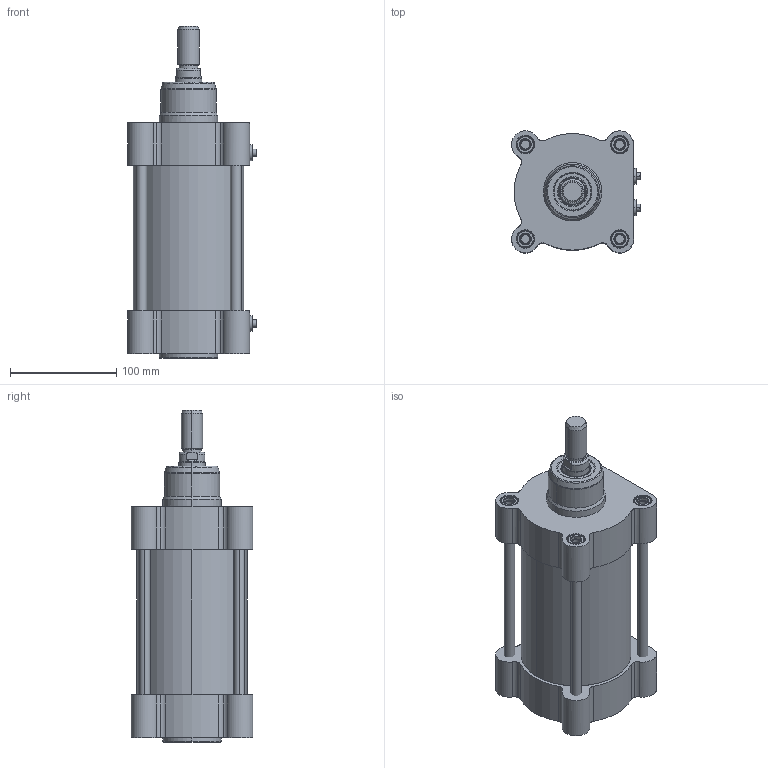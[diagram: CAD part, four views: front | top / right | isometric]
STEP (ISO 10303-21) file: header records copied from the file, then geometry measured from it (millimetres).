
FILE_DESCRIPTION (( 'STEP AP203' ), '1' );
FILE_NAME ('CTMI100-80.STEP', '2020-03-27T09:58:10', ( '' ), ( '' ), 'SwSTEP 2.0', 'SolidWorks 2019', '' );
FILE_SCHEMA (( 'CONFIG_CONTROL_DESIGN' ));
Length unit declared in the file: millimetre
Products named in the file (1): CTMI100-80
Bounding box: 121.49 x 115 x 313 mm (x, y, z)
Surface area: 267935.7 mm2 (no closed solid volume)
Topology: 0 solids, 20 shells, 706 faces, 1641 edges, 1016 vertices
Faces by surface type: cone 216, cylinder 201, plane 193, torus 80, bspline 16
Entity records: 32585 total; most frequent: CARTESIAN_POINT 18829, ORIENTED_EDGE 3244, DIRECTION 2039, EDGE_CURVE 1641, B_SPLINE_CURVE_WITH_KNOTS 1097, VERTEX_POINT 1016, AXIS2_PLACEMENT_3D 855, EDGE_LOOP 773
